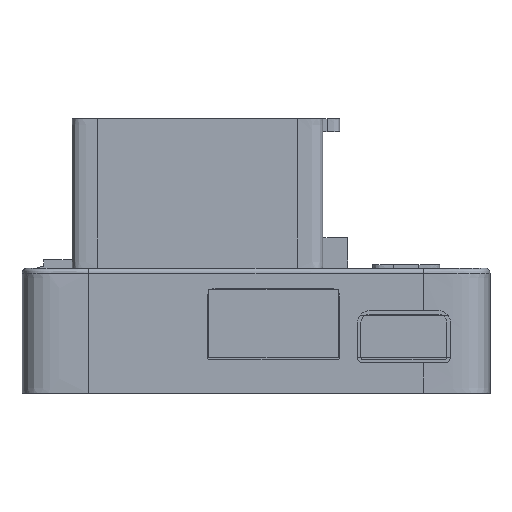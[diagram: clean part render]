
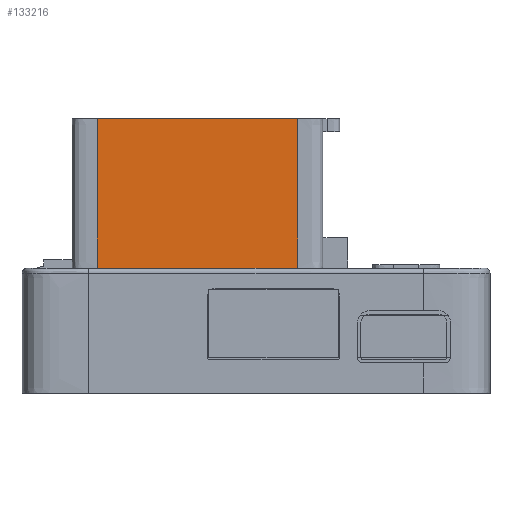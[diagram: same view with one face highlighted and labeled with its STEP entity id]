
A CAD part, left-side view. The second image highlights one B-rep face of the part: STEP entity #133216.
In plain terms, the highlighted planar face has unit normal (-1, 0, 0).
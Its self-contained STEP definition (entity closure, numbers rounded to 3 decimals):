
#127506 = PLANE('',#127507);
#127507 = AXIS2_PLACEMENT_3D('',#127508,#127509,#127510);
#127508 = CARTESIAN_POINT('',(79.,35.,32.9));
#127509 = DIRECTION('',(-0.,-0.,1.));
#127510 = DIRECTION('',(-1.,0.,0.));
#128136 = VERTEX_POINT('',#128137);
#128137 = CARTESIAN_POINT('',(67.,23.,32.9));
#128199 = SURFACE_OF_LINEAR_EXTRUSION('',#128200,#128228);
#128200 = B_SPLINE_CURVE_WITH_KNOTS('',3,(#128201,#128202,#128203,
    #128204,#128205,#128206,#128207,#128208,#128209,#128210,#128211,
    #128212,#128213,#128214,#128215,#128216,#128217,#128218,#128219,
    #128220,#128221,#128222,#128223,#128224,#128225,#128226,#128227),
  .UNSPECIFIED.,.F.,.F.,(4,1,1,1,1,1,1,1,1,1,1,1,1,1,1,1,1,1,1,1,1,1,1,1
    ,4),(0.,1.008,1.329,1.561,1.748,
    1.908,2.049,2.175,2.291,
    2.399,2.502,2.601,2.698,
    2.795,2.893,2.996,3.104,
    3.22,3.346,3.487,3.647,
    3.834,4.066,4.387,5.395),
  .UNSPECIFIED.);
#128201 = CARTESIAN_POINT('',(70.,20.,15.));
#128202 = CARTESIAN_POINT('',(69.659,20.,15.));
#128203 = CARTESIAN_POINT('',(69.222,19.997,15.));
#128204 = CARTESIAN_POINT('',(68.701,20.008,15.));
#128205 = CARTESIAN_POINT('',(68.454,20.021,15.));
#128206 = CARTESIAN_POINT('',(68.262,20.039,15.));
#128207 = CARTESIAN_POINT('',(68.101,20.062,15.));
#128208 = CARTESIAN_POINT('',(67.961,20.091,15.));
#128209 = CARTESIAN_POINT('',(67.838,20.125,15.));
#128210 = CARTESIAN_POINT('',(67.728,20.165,15.));
#128211 = CARTESIAN_POINT('',(67.629,20.211,15.));
#128212 = CARTESIAN_POINT('',(67.54,20.263,15.));
#128213 = CARTESIAN_POINT('',(67.46,20.322,15.));
#128214 = CARTESIAN_POINT('',(67.387,20.387,15.));
#128215 = CARTESIAN_POINT('',(67.322,20.46,15.));
#128216 = CARTESIAN_POINT('',(67.263,20.54,15.));
#128217 = CARTESIAN_POINT('',(67.211,20.629,15.));
#128218 = CARTESIAN_POINT('',(67.165,20.728,15.));
#128219 = CARTESIAN_POINT('',(67.125,20.838,15.));
#128220 = CARTESIAN_POINT('',(67.091,20.961,15.));
#128221 = CARTESIAN_POINT('',(67.062,21.101,15.));
#128222 = CARTESIAN_POINT('',(67.039,21.262,15.));
#128223 = CARTESIAN_POINT('',(67.021,21.454,15.));
#128224 = CARTESIAN_POINT('',(67.008,21.7,15.));
#128225 = CARTESIAN_POINT('',(66.997,22.229,15.));
#128226 = CARTESIAN_POINT('',(67.,22.611,15.));
#128227 = CARTESIAN_POINT('',(67.,23.,15.));
#128228 = VECTOR('',#128229,1.);
#128229 = DIRECTION('',(-0.,0.,-1.));
#128237 = EDGE_CURVE('',#128136,#128238,#128240,.T.);
#128238 = VERTEX_POINT('',#128239);
#128239 = CARTESIAN_POINT('',(67.,47.,32.9));
#128240 = SURFACE_CURVE('',#128241,(#128245,#128252),.PCURVE_S1.);
#128241 = LINE('',#128242,#128243);
#128242 = CARTESIAN_POINT('',(67.,23.,32.9));
#128243 = VECTOR('',#128244,1.);
#128244 = DIRECTION('',(-0.,1.,-0.));
#128245 = PCURVE('',#127506,#128246);
#128246 = DEFINITIONAL_REPRESENTATION('',(#128247),#128251);
#128247 = LINE('',#128248,#128249);
#128248 = CARTESIAN_POINT('',(12.,12.));
#128249 = VECTOR('',#128250,1.);
#128250 = DIRECTION('',(-0.,-1.));
#128251 = ( GEOMETRIC_REPRESENTATION_CONTEXT(2) 
PARAMETRIC_REPRESENTATION_CONTEXT() REPRESENTATION_CONTEXT('2D SPACE',''
  ) );
#128252 = PCURVE('',#128253,#128258);
#128253 = PLANE('',#128254);
#128254 = AXIS2_PLACEMENT_3D('',#128255,#128256,#128257);
#128255 = CARTESIAN_POINT('',(67.,23.,15.));
#128256 = DIRECTION('',(1.,-0.,-0.));
#128257 = DIRECTION('',(0.,-1.,0.));
#128258 = DEFINITIONAL_REPRESENTATION('',(#128259),#128263);
#128259 = LINE('',#128260,#128261);
#128260 = CARTESIAN_POINT('',(-0.,-17.9));
#128261 = VECTOR('',#128262,1.);
#128262 = DIRECTION('',(-1.,-0.));
#128263 = ( GEOMETRIC_REPRESENTATION_CONTEXT(2) 
PARAMETRIC_REPRESENTATION_CONTEXT() REPRESENTATION_CONTEXT('2D SPACE',''
  ) );
#128327 = SURFACE_OF_LINEAR_EXTRUSION('',#128328,#128356);
#128328 = B_SPLINE_CURVE_WITH_KNOTS('',3,(#128329,#128330,#128331,
    #128332,#128333,#128334,#128335,#128336,#128337,#128338,#128339,
    #128340,#128341,#128342,#128343,#128344,#128345,#128346,#128347,
    #128348,#128349,#128350,#128351,#128352,#128353,#128354,#128355),
  .UNSPECIFIED.,.F.,.F.,(4,1,1,1,1,1,1,1,1,1,1,1,1,1,1,1,1,1,1,1,1,1,1,1
    ,4),(0.,1.008,1.329,1.561,1.748,
    1.908,2.049,2.175,2.291,
    2.399,2.502,2.601,2.698,
    2.795,2.893,2.996,3.104,
    3.22,3.346,3.487,3.647,
    3.834,4.066,4.387,5.395),
  .UNSPECIFIED.);
#128329 = CARTESIAN_POINT('',(67.,47.,15.));
#128330 = CARTESIAN_POINT('',(67.,47.341,15.));
#128331 = CARTESIAN_POINT('',(66.997,47.778,15.));
#128332 = CARTESIAN_POINT('',(67.008,48.299,15.));
#128333 = CARTESIAN_POINT('',(67.021,48.546,15.));
#128334 = CARTESIAN_POINT('',(67.039,48.738,15.));
#128335 = CARTESIAN_POINT('',(67.062,48.899,15.));
#128336 = CARTESIAN_POINT('',(67.091,49.039,15.));
#128337 = CARTESIAN_POINT('',(67.125,49.162,15.));
#128338 = CARTESIAN_POINT('',(67.165,49.272,15.));
#128339 = CARTESIAN_POINT('',(67.211,49.371,15.));
#128340 = CARTESIAN_POINT('',(67.263,49.46,15.));
#128341 = CARTESIAN_POINT('',(67.322,49.54,15.));
#128342 = CARTESIAN_POINT('',(67.387,49.613,15.));
#128343 = CARTESIAN_POINT('',(67.46,49.678,15.));
#128344 = CARTESIAN_POINT('',(67.54,49.737,15.));
#128345 = CARTESIAN_POINT('',(67.629,49.789,15.));
#128346 = CARTESIAN_POINT('',(67.728,49.835,15.));
#128347 = CARTESIAN_POINT('',(67.838,49.875,15.));
#128348 = CARTESIAN_POINT('',(67.961,49.909,15.));
#128349 = CARTESIAN_POINT('',(68.101,49.938,15.));
#128350 = CARTESIAN_POINT('',(68.262,49.961,15.));
#128351 = CARTESIAN_POINT('',(68.454,49.979,15.));
#128352 = CARTESIAN_POINT('',(68.7,49.992,15.));
#128353 = CARTESIAN_POINT('',(69.229,50.003,15.));
#128354 = CARTESIAN_POINT('',(69.611,50.,15.));
#128355 = CARTESIAN_POINT('',(70.,50.,15.));
#128356 = VECTOR('',#128357,1.);
#128357 = DIRECTION('',(-0.,0.,-1.));
#128368 = EDGE_CURVE('',#128369,#128238,#128371,.T.);
#128369 = VERTEX_POINT('',#128370);
#128370 = CARTESIAN_POINT('',(67.,47.,15.));
#128371 = SURFACE_CURVE('',#128372,(#128376,#128383),.PCURVE_S1.);
#128372 = LINE('',#128373,#128374);
#128373 = CARTESIAN_POINT('',(67.,47.,15.));
#128374 = VECTOR('',#128375,1.);
#128375 = DIRECTION('',(-0.,-0.,1.));
#128376 = PCURVE('',#128327,#128377);
#128377 = DEFINITIONAL_REPRESENTATION('',(#128378),#128382);
#128378 = LINE('',#128379,#128380);
#128379 = CARTESIAN_POINT('',(0.,0.));
#128380 = VECTOR('',#128381,1.);
#128381 = DIRECTION('',(0.,-1.));
#128382 = ( GEOMETRIC_REPRESENTATION_CONTEXT(2) 
PARAMETRIC_REPRESENTATION_CONTEXT() REPRESENTATION_CONTEXT('2D SPACE',''
  ) );
#128383 = PCURVE('',#128253,#128384);
#128384 = DEFINITIONAL_REPRESENTATION('',(#128385),#128389);
#128385 = LINE('',#128386,#128387);
#128386 = CARTESIAN_POINT('',(-24.,0.));
#128387 = VECTOR('',#128388,1.);
#128388 = DIRECTION('',(-0.,-1.));
#128389 = ( GEOMETRIC_REPRESENTATION_CONTEXT(2) 
PARAMETRIC_REPRESENTATION_CONTEXT() REPRESENTATION_CONTEXT('2D SPACE',''
  ) );
#128453 = PLANE('',#128454);
#128454 = AXIS2_PLACEMENT_3D('',#128455,#128456,#128457);
#128455 = CARTESIAN_POINT('',(79.,35.,15.));
#128456 = DIRECTION('',(-0.,-0.,1.));
#128457 = DIRECTION('',(-1.,0.,0.));
#128607 = VERTEX_POINT('',#128608);
#128608 = CARTESIAN_POINT('',(67.,23.,15.));
#128677 = EDGE_CURVE('',#128607,#128369,#128678,.T.);
#128678 = SURFACE_CURVE('',#128679,(#128683,#128690),.PCURVE_S1.);
#128679 = LINE('',#128680,#128681);
#128680 = CARTESIAN_POINT('',(67.,23.,15.));
#128681 = VECTOR('',#128682,1.);
#128682 = DIRECTION('',(-0.,1.,-0.));
#128683 = PCURVE('',#128453,#128684);
#128684 = DEFINITIONAL_REPRESENTATION('',(#128685),#128689);
#128685 = LINE('',#128686,#128687);
#128686 = CARTESIAN_POINT('',(12.,12.));
#128687 = VECTOR('',#128688,1.);
#128688 = DIRECTION('',(-0.,-1.));
#128689 = ( GEOMETRIC_REPRESENTATION_CONTEXT(2) 
PARAMETRIC_REPRESENTATION_CONTEXT() REPRESENTATION_CONTEXT('2D SPACE',''
  ) );
#128690 = PCURVE('',#128253,#128691);
#128691 = DEFINITIONAL_REPRESENTATION('',(#128692),#128696);
#128692 = LINE('',#128693,#128694);
#128693 = CARTESIAN_POINT('',(-0.,0.));
#128694 = VECTOR('',#128695,1.);
#128695 = DIRECTION('',(-1.,-0.));
#128696 = ( GEOMETRIC_REPRESENTATION_CONTEXT(2) 
PARAMETRIC_REPRESENTATION_CONTEXT() REPRESENTATION_CONTEXT('2D SPACE',''
  ) );
#133216 = ADVANCED_FACE('',(#133217),#128253,.F.);
#133217 = FACE_BOUND('',#133218,.T.);
#133218 = EDGE_LOOP('',(#133219,#133240,#133241,#133242));
#133219 = ORIENTED_EDGE('',*,*,#133220,.T.);
#133220 = EDGE_CURVE('',#128607,#128136,#133221,.T.);
#133221 = SURFACE_CURVE('',#133222,(#133226,#133233),.PCURVE_S1.);
#133222 = LINE('',#133223,#133224);
#133223 = CARTESIAN_POINT('',(67.,23.,15.));
#133224 = VECTOR('',#133225,1.);
#133225 = DIRECTION('',(-0.,-0.,1.));
#133226 = PCURVE('',#128253,#133227);
#133227 = DEFINITIONAL_REPRESENTATION('',(#133228),#133232);
#133228 = LINE('',#133229,#133230);
#133229 = CARTESIAN_POINT('',(-0.,0.));
#133230 = VECTOR('',#133231,1.);
#133231 = DIRECTION('',(-0.,-1.));
#133232 = ( GEOMETRIC_REPRESENTATION_CONTEXT(2) 
PARAMETRIC_REPRESENTATION_CONTEXT() REPRESENTATION_CONTEXT('2D SPACE',''
  ) );
#133233 = PCURVE('',#128199,#133234);
#133234 = DEFINITIONAL_REPRESENTATION('',(#133235),#133239);
#133235 = LINE('',#133236,#133237);
#133236 = CARTESIAN_POINT('',(5.395,0.));
#133237 = VECTOR('',#133238,1.);
#133238 = DIRECTION('',(0.,-1.));
#133239 = ( GEOMETRIC_REPRESENTATION_CONTEXT(2) 
PARAMETRIC_REPRESENTATION_CONTEXT() REPRESENTATION_CONTEXT('2D SPACE',''
  ) );
#133240 = ORIENTED_EDGE('',*,*,#128237,.T.);
#133241 = ORIENTED_EDGE('',*,*,#128368,.F.);
#133242 = ORIENTED_EDGE('',*,*,#128677,.F.);
